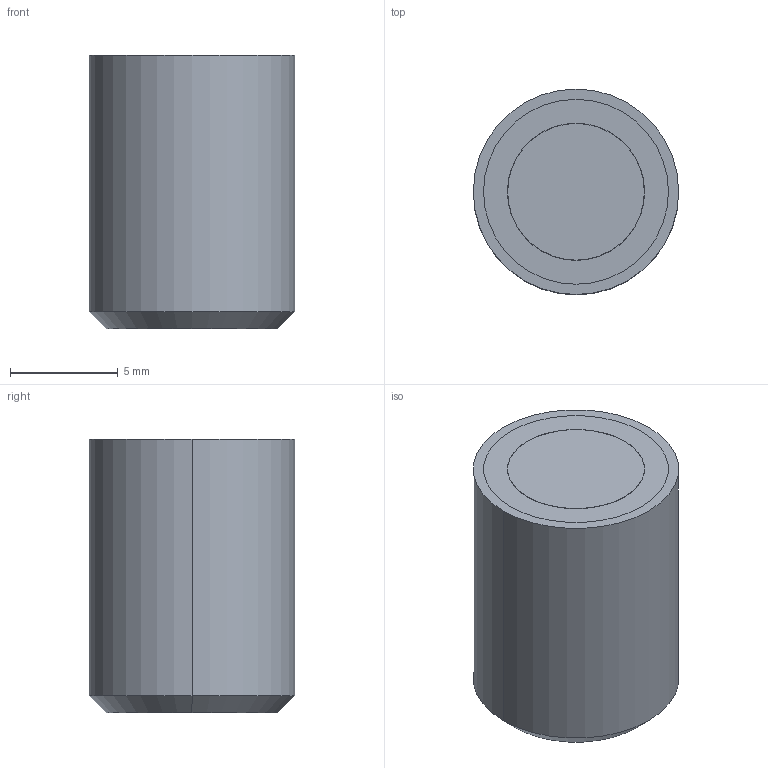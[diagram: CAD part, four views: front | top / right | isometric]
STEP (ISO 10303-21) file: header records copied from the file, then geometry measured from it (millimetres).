
FILE_DESCRIPTION (( 'STEP AP203' ), '1' );
FILE_NAME ('R375.STEP', '2018-08-17T15:15:46', ( '' ), ( '' ), 'SwSTEP 2.0', 'SolidWorks 2015', '' );
FILE_SCHEMA (( 'CONFIG_CONTROL_DESIGN' ));
Length unit declared in the file: inch
Products named in the file (1): R375
Bounding box: 9.53 x 9.53 x 12.7 mm (x, y, z)
Volume: 868.9 mm3; surface area: 1584.5 mm2
Topology: 3 solids, 3 shells, 21 faces, 40 edges, 26 vertices
Faces by surface type: cylinder 12, plane 7, cone 2
Entity records: 627 total; most frequent: DIRECTION 110, CARTESIAN_POINT 88, ORIENTED_EDGE 80, AXIS2_PLACEMENT_3D 48, EDGE_CURVE 40, VERTEX_POINT 26, CIRCLE 26, EDGE_LOOP 26
